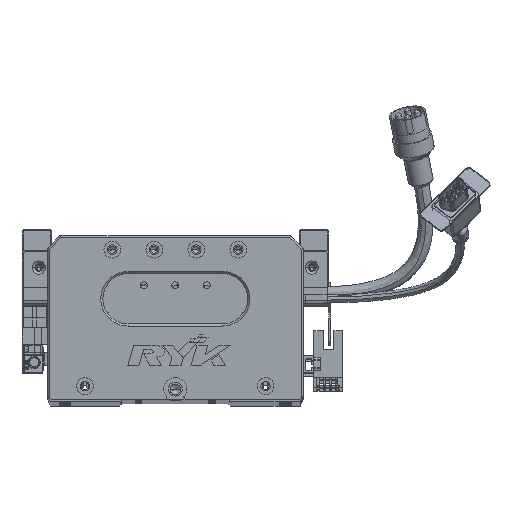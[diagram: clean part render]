
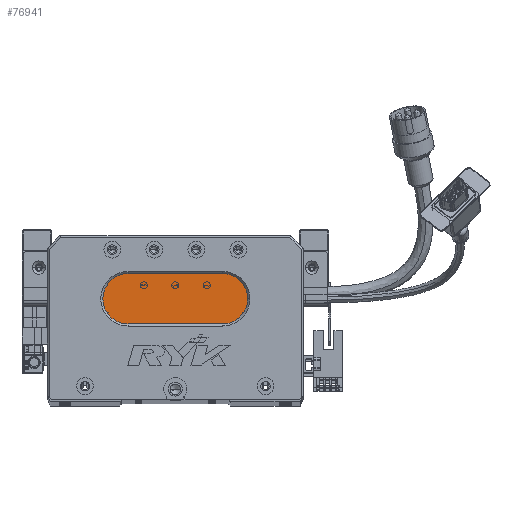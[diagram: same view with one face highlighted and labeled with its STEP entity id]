
A CAD part, top view. The second image highlights one B-rep face of the part: STEP entity #76941.
In plain terms, the highlighted planar face has unit normal (0, 0, 1) as drawn and (0, 0, -1) by its records, which use the part's own axes.
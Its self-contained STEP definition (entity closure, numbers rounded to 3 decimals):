
#1555 = LINE ( 'NONE', #78519, #70920 ) ;
#2519 = EDGE_CURVE ( 'NONE', #78569, #41145, #66042, .T. ) ;
#3884 = DIRECTION ( 'NONE',  ( 0., 0., -1. ) ) ;
#6112 = AXIS2_PLACEMENT_3D ( 'NONE', #7948, #71782, #6820 ) ;
#6820 = DIRECTION ( 'NONE',  ( -1., 0., 0. ) ) ;
#7948 = CARTESIAN_POINT ( 'NONE',  ( 83.5, 48., 13. ) ) ;
#8833 = DIRECTION ( 'NONE',  ( -1., 0., 0. ) ) ;
#8842 = EDGE_LOOP ( 'NONE', ( #51573, #38917, #35232, #31081, #30950 ) ) ;
#18701 = EDGE_CURVE ( 'NONE', #76893, #73875, #60173, .T. ) ;
#20160 = CARTESIAN_POINT ( 'NONE',  ( 38.5, 36., 13. ) ) ;
#22165 = DIRECTION ( 'NONE',  ( 0., 0., -1. ) ) ;
#22256 = DIRECTION ( 'NONE',  ( 1., 0., 0. ) ) ;
#26091 = EDGE_CURVE ( 'NONE', #41145, #60866, #81592, .T. ) ;
#28315 = VECTOR ( 'NONE', #22256, 1000. ) ;
#30159 = CARTESIAN_POINT ( 'NONE',  ( 38.5, 48., 13. ) ) ;
#30755 = EDGE_CURVE ( 'NONE', #60866, #76893, #1555, .T. ) ;
#30950 = ORIENTED_EDGE ( 'NONE', *, *, #2519, .T. ) ;
#31081 = ORIENTED_EDGE ( 'NONE', *, *, #31400, .T. ) ;
#31400 = EDGE_CURVE ( 'NONE', #73875, #78569, #32387, .T. ) ;
#32387 = CIRCLE ( 'NONE', #82111, 12. ) ;
#35232 = ORIENTED_EDGE ( 'NONE', *, *, #18701, .T. ) ;
#38584 = DIRECTION ( 'NONE',  ( -1., 0., 0. ) ) ;
#38917 = ORIENTED_EDGE ( 'NONE', *, *, #30755, .T. ) ;
#41145 = VERTEX_POINT ( 'NONE', #63955 ) ;
#43280 = AXIS2_PLACEMENT_3D ( 'NONE', #30159, #76946, #44417 ) ;
#44417 = DIRECTION ( 'NONE',  ( -1., 0., 0. ) ) ;
#46961 = PLANE ( 'NONE',  #6112 ) ;
#49413 = CARTESIAN_POINT ( 'NONE',  ( 83.5, 36., 13. ) ) ;
#49697 = DIRECTION ( 'NONE',  ( -1., 0., 0. ) ) ;
#49836 = CARTESIAN_POINT ( 'NONE',  ( 38.5, 60., 13. ) ) ;
#51104 = FACE_OUTER_BOUND ( 'NONE', #8842, .T. ) ;
#51573 = ORIENTED_EDGE ( 'NONE', *, *, #26091, .T. ) ;
#51933 = AXIS2_PLACEMENT_3D ( 'NONE', #69420, #3884, #49697 ) ;
#55622 = CARTESIAN_POINT ( 'NONE',  ( 83.5, 60., 13. ) ) ;
#59065 = CARTESIAN_POINT ( 'NONE',  ( 26.5, 48., 13. ) ) ;
#60173 = CIRCLE ( 'NONE', #43280, 12. ) ;
#60866 = VERTEX_POINT ( 'NONE', #49413 ) ;
#63955 = CARTESIAN_POINT ( 'NONE',  ( 83.5, 60., 13. ) ) ;
#66042 = LINE ( 'NONE', #55622, #28315 ) ;
#69052 = CARTESIAN_POINT ( 'NONE',  ( 38.5, 48., 13. ) ) ;
#69420 = CARTESIAN_POINT ( 'NONE',  ( 83.5, 48., 13. ) ) ;
#70920 = VECTOR ( 'NONE', #38584, 1000. ) ;
#71782 = DIRECTION ( 'NONE',  ( 0., 0., -1. ) ) ;
#73875 = VERTEX_POINT ( 'NONE', #59065 ) ;
#76893 = VERTEX_POINT ( 'NONE', #20160 ) ;
#76941 = ADVANCED_FACE ( 'NONE', ( #51104 ), #46961, .T. ) ;
#76946 = DIRECTION ( 'NONE',  ( 0., 0., -1. ) ) ;
#78519 = CARTESIAN_POINT ( 'NONE',  ( 83.5, 36., 13. ) ) ;
#78569 = VERTEX_POINT ( 'NONE', #49836 ) ;
#81592 = CIRCLE ( 'NONE', #51933, 12. ) ;
#82111 = AXIS2_PLACEMENT_3D ( 'NONE', #69052, #22165, #8833 ) ;
